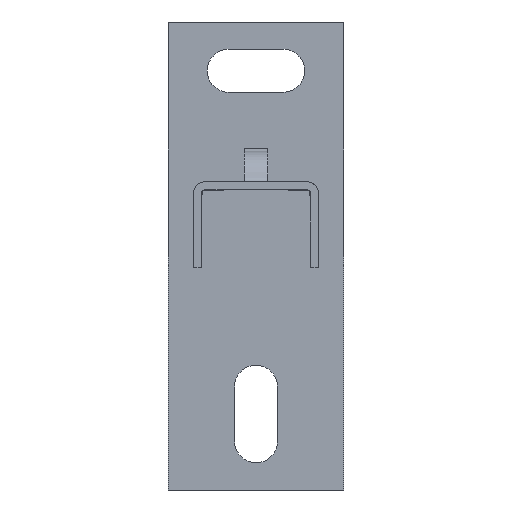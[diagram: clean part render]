
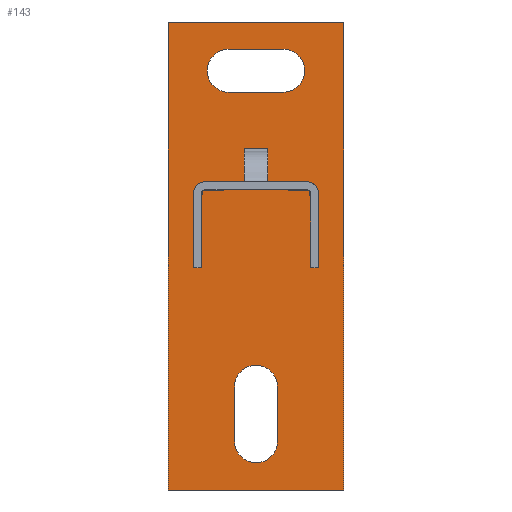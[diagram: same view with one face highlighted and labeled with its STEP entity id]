
A CAD part, front view. The second image highlights one B-rep face of the part: STEP entity #143.
In plain terms, the highlighted planar face has unit normal (0, -1, 0).
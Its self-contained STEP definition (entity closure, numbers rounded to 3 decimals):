
#33=FACE_BOUND($,#284,.T.);
#34=FACE_BOUND($,#285,.T.);
#43=PLANE($,#1267);
#143=ADVANCED_FACE($,(#213,#33,#34),#43,.T.);
#213=FACE_OUTER_BOUND($,#283,.T.);
#283=EDGE_LOOP($,(#479,#480,#481,#482));
#284=EDGE_LOOP($,(#483,#484));
#285=EDGE_LOOP($,(#485,#486));
#479=ORIENTED_EDGE($,*,*,#767,.T.);
#480=ORIENTED_EDGE($,*,*,#778,.T.);
#481=ORIENTED_EDGE($,*,*,#777,.T.);
#482=ORIENTED_EDGE($,*,*,#776,.T.);
#483=ORIENTED_EDGE($,*,*,#768,.T.);
#484=ORIENTED_EDGE($,*,*,#786,.T.);
#485=ORIENTED_EDGE($,*,*,#769,.T.);
#486=ORIENTED_EDGE($,*,*,#789,.T.);
#767=EDGE_CURVE($,#923,#931,#1067,.T.);
#768=EDGE_CURVE($,#924,#935,#1205,.T.);
#769=EDGE_CURVE($,#925,#937,#1206,.T.);
#776=EDGE_CURVE($,#929,#923,#1072,.T.);
#777=EDGE_CURVE($,#930,#929,#1073,.T.);
#778=EDGE_CURVE($,#931,#930,#1074,.T.);
#786=EDGE_CURVE($,#935,#924,#1209,.T.);
#789=EDGE_CURVE($,#937,#925,#1211,.T.);
#923=VERTEX_POINT($,#2586);
#924=VERTEX_POINT($,#2587);
#925=VERTEX_POINT($,#2588);
#929=VERTEX_POINT($,#2592);
#930=VERTEX_POINT($,#2593);
#931=VERTEX_POINT($,#2594);
#935=VERTEX_POINT($,#2598);
#937=VERTEX_POINT($,#2600);
#1067=B_SPLINE_CURVE_WITH_KNOTS($,1,(#2436,#2437),.UNSPECIFIED.,.F.,.F.,
(2,2),(0.,45.),.UNSPECIFIED.);
#1072=B_SPLINE_CURVE_WITH_KNOTS($,1,(#2474,#2475),.UNSPECIFIED.,.F.,.F.,
(2,2),(210.,330.),.UNSPECIFIED.);
#1073=B_SPLINE_CURVE_WITH_KNOTS($,1,(#2476,#2477),.UNSPECIFIED.,.F.,.F.,
(2,2),(165.,210.),.UNSPECIFIED.);
#1074=B_SPLINE_CURVE_WITH_KNOTS($,1,(#2478,#2479),.UNSPECIFIED.,.F.,.F.,
(2,2),(45.,165.),.UNSPECIFIED.);
#1205=(
BOUNDED_CURVE()
B_SPLINE_CURVE(2,(#2438,#2439,#2440,#2441,#2442,#2443,#2444),.UNSPECIFIED.,
.F.,.F.)
B_SPLINE_CURVE_WITH_KNOTS((3,2,2,3),(-111.115,-97.115,
-88.476,-79.836),.UNSPECIFIED.)
CURVE()
GEOMETRIC_REPRESENTATION_ITEM()
RATIONAL_B_SPLINE_CURVE((1.,1.,1.,0.707,1.,0.707,
1.))
REPRESENTATION_ITEM($)
);
#1206=(
BOUNDED_CURVE()
B_SPLINE_CURVE(2,(#2445,#2446,#2447,#2448,#2449,#2450,#2451),.UNSPECIFIED.,
.F.,.F.)
B_SPLINE_CURVE_WITH_KNOTS((3,2,2,3),(-111.115,-97.115,
-88.476,-79.836),.UNSPECIFIED.)
CURVE()
GEOMETRIC_REPRESENTATION_ITEM()
RATIONAL_B_SPLINE_CURVE((1.,1.,1.,0.707,1.,0.707,
1.))
REPRESENTATION_ITEM($)
);
#1209=(
BOUNDED_CURVE()
B_SPLINE_CURVE(2,(#2494,#2495,#2496,#2497,#2498,#2499,#2500),.UNSPECIFIED.,
.F.,.F.)
B_SPLINE_CURVE_WITH_KNOTS((3,2,2,3),(-79.836,-65.836,
-57.197,-48.558),.UNSPECIFIED.)
CURVE()
GEOMETRIC_REPRESENTATION_ITEM()
RATIONAL_B_SPLINE_CURVE((1.,1.,1.,0.707,1.,0.707,
1.))
REPRESENTATION_ITEM($)
);
#1211=(
BOUNDED_CURVE()
B_SPLINE_CURVE(2,(#2510,#2511,#2512,#2513,#2514,#2515,#2516),.UNSPECIFIED.,
.F.,.F.)
B_SPLINE_CURVE_WITH_KNOTS((3,2,2,3),(-79.836,-65.836,
-57.197,-48.558),.UNSPECIFIED.)
CURVE()
GEOMETRIC_REPRESENTATION_ITEM()
RATIONAL_B_SPLINE_CURVE((1.,1.,1.,0.707,1.,0.707,
1.))
REPRESENTATION_ITEM($)
);
#1267=AXIS2_PLACEMENT_3D($,#2524,#1281,$);
#1281=DIRECTION($,(0.,-1.,0.));
#2436=CARTESIAN_POINT($,(-22.5,0.,-120.));
#2437=CARTESIAN_POINT($,(22.5,0.,-120.));
#2438=CARTESIAN_POINT($,(-7.,0.,-7.));
#2439=CARTESIAN_POINT($,(0.,0.,-7.));
#2440=CARTESIAN_POINT($,(7.,0.,-7.));
#2441=CARTESIAN_POINT($,(12.5,0.,-7.));
#2442=CARTESIAN_POINT($,(12.5,0.,-12.5));
#2443=CARTESIAN_POINT($,(12.5,0.,-18.));
#2444=CARTESIAN_POINT($,(7.,0.,-18.));
#2445=CARTESIAN_POINT($,(5.5,0.,-93.5));
#2446=CARTESIAN_POINT($,(5.5,0.,-100.5));
#2447=CARTESIAN_POINT($,(5.5,0.,-107.5));
#2448=CARTESIAN_POINT($,(5.5,0.,-113.));
#2449=CARTESIAN_POINT($,(0.,0.,-113.));
#2450=CARTESIAN_POINT($,(-5.5,0.,-113.));
#2451=CARTESIAN_POINT($,(-5.5,0.,-107.5));
#2474=CARTESIAN_POINT($,(-22.5,0.,0.));
#2475=CARTESIAN_POINT($,(-22.5,0.,-120.));
#2476=CARTESIAN_POINT($,(22.5,0.,0.));
#2477=CARTESIAN_POINT($,(-22.5,0.,0.));
#2478=CARTESIAN_POINT($,(22.5,0.,-120.));
#2479=CARTESIAN_POINT($,(22.5,0.,0.));
#2494=CARTESIAN_POINT($,(7.,0.,-18.));
#2495=CARTESIAN_POINT($,(0.,0.,-18.));
#2496=CARTESIAN_POINT($,(-7.,0.,-18.));
#2497=CARTESIAN_POINT($,(-12.5,0.,-18.));
#2498=CARTESIAN_POINT($,(-12.5,0.,-12.5));
#2499=CARTESIAN_POINT($,(-12.5,0.,-7.));
#2500=CARTESIAN_POINT($,(-7.,0.,-7.));
#2510=CARTESIAN_POINT($,(-5.5,0.,-107.5));
#2511=CARTESIAN_POINT($,(-5.5,0.,-100.5));
#2512=CARTESIAN_POINT($,(-5.5,0.,-93.5));
#2513=CARTESIAN_POINT($,(-5.5,0.,-88.));
#2514=CARTESIAN_POINT($,(0.,0.,-88.));
#2515=CARTESIAN_POINT($,(5.5,0.,-88.));
#2516=CARTESIAN_POINT($,(5.5,0.,-93.5));
#2524=CARTESIAN_POINT($,(-22.5,0.,-120.));
#2586=CARTESIAN_POINT($,(-22.5,0.,-120.));
#2587=CARTESIAN_POINT($,(-7.,0.,-7.));
#2588=CARTESIAN_POINT($,(5.5,0.,-93.5));
#2592=CARTESIAN_POINT($,(-22.5,0.,0.));
#2593=CARTESIAN_POINT($,(22.5,0.,0.));
#2594=CARTESIAN_POINT($,(22.5,0.,-120.));
#2598=CARTESIAN_POINT($,(7.,0.,-18.));
#2600=CARTESIAN_POINT($,(-5.5,0.,-107.5));
